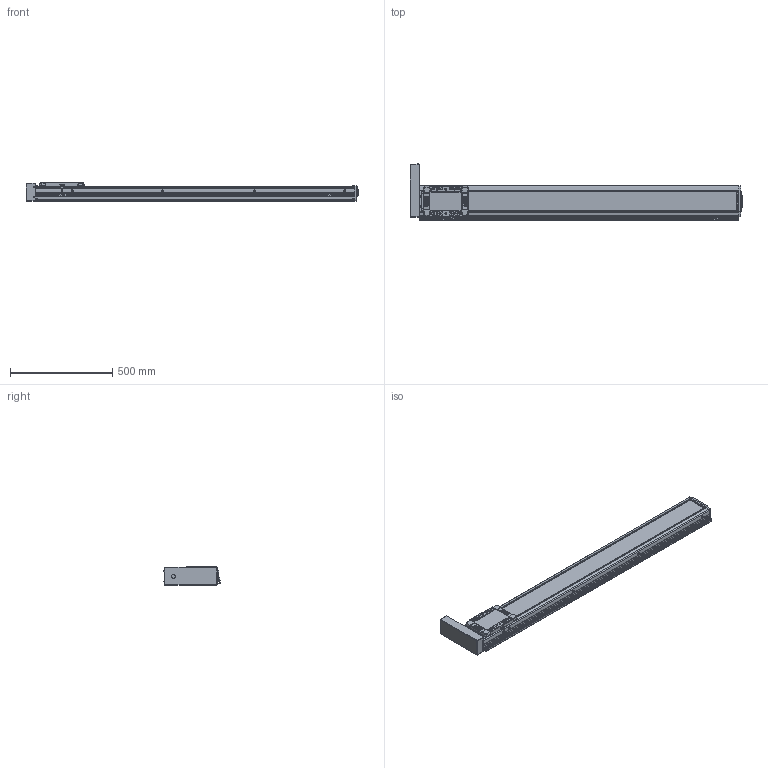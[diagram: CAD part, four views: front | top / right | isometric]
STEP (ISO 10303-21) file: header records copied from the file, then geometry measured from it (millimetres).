
FILE_DESCRIPTION(('STEP AP214'),'1');
FILE_NAME('Z:/Web/3D/SAN150/2013.04 (STP.)/SAN150ㅁㅁ-1300PL+3SR.stp','2013-05-07T08:35:11',(' '),(' '),'Spatial InterOp 3D',' ',' ');
FILE_SCHEMA(('automotive_design'));
Length unit declared in the file: millimetre
Products named in the file (62): M3.0 x 6.0; SRL-16x17-360L; SGD-SAN150; EE-SX674; SBK-SX674-352; 스크루 : Round - M3.0 x 6.0; BHCS M4.0 x 10.0; BHCS M3.0 x 6.0; P; SLBL-SAN150; SLCV-SAN150; FHCS M4.0 x 8.0; SFX-SAN150; RRCV-SAN150; FRBL-SAN150; Spacer; RN15; FRCV-SAN150; Screw 20; BASE-SAN150-000L ; SUS COVER; 스크루 : Round - M5.0 x 6.0
Bounding box: 1620 x 273.36 x 90 mm (x, y, z)
Volume: 9287700.4 mm3; surface area: 1769224.9 mm2
Topology: 62 solids, 62 shells, 2886 faces, 7413 edges, 4742 vertices
Faces by surface type: plane 1452, cylinder 967, cone 346, sphere 88, bspline 21, torus 12
Entity records: 114638 total; most frequent: CARTESIAN_POINT 18677, DIRECTION 15728, ORIENTED_EDGE 14530, EDGE_CURVE 7265, AXIS2_PLACEMENT_3D 5660, VERTEX_POINT 4742, LINE 4408, VECTOR 4408
